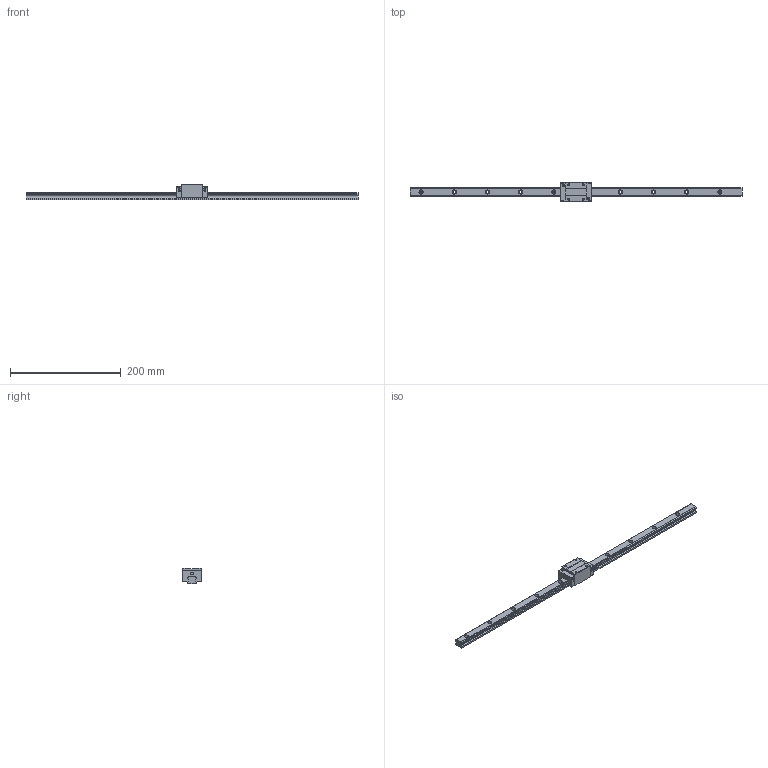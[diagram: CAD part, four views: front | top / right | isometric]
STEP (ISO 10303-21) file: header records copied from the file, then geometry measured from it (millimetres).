
FILE_DESCRIPTION (( 'STEP AP203' ), '1' );
FILE_NAME ('TRH15VN-XNC.STEP', '2026-02-12T07:32:02', ( '' ), ( '' ), 'SwSTEP 2.0', 'SolidWorks 2022', '' );
FILE_SCHEMA (( 'CONFIG_CONTROL_DESIGN' ));
Length unit declared in the file: millimetre
Products named in the file (1): TRH15VN-XNC
Bounding box: 600 x 34 x 28 mm (x, y, z)
Volume: 137156.8 mm3; surface area: 45494.7 mm2
Topology: 1 solids, 1 shells, 329 faces, 884 edges, 578 vertices
Faces by surface type: plane 169, cylinder 96, bspline 48, cone 16
Entity records: 13093 total; most frequent: CARTESIAN_POINT 4904, ORIENTED_EDGE 1752, DIRECTION 1546, EDGE_CURVE 876, VECTOR 578, LINE 578, VERTEX_POINT 578, AXIS2_PLACEMENT_3D 484
